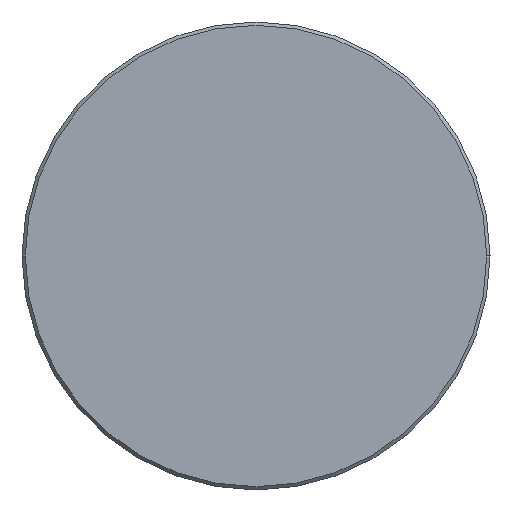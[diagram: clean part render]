
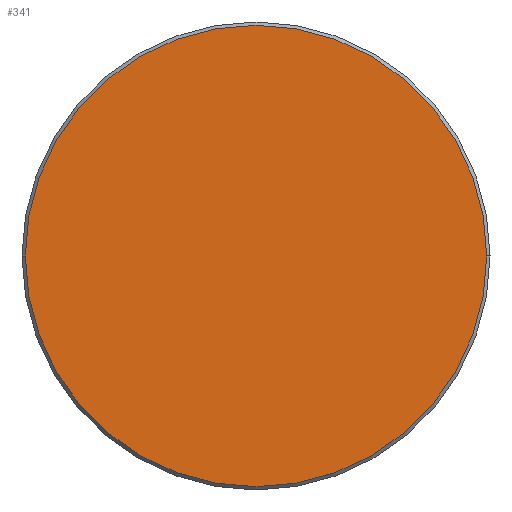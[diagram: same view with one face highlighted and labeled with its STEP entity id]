
A CAD part, left-side view. The second image highlights one B-rep face of the part: STEP entity #341.
In plain terms, the highlighted planar face has unit normal (-1, 0, 0).
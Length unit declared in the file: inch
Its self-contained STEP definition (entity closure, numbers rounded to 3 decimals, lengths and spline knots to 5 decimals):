
#14 = ORIENTED_EDGE ( 'NONE', *, *, #283, .T. ) ;
#25 = AXIS2_PLACEMENT_3D ( 'NONE', #165, #356, #218 ) ;
#73 = VERTEX_POINT ( 'NONE', #120 ) ;
#91 = EDGE_LOOP ( 'NONE', ( #180, #14 ) ) ;
#92 = CARTESIAN_POINT ( 'NONE',  ( 0., 0., 0. ) ) ;
#103 = AXIS2_PLACEMENT_3D ( 'NONE', #306, #364, #191 ) ;
#120 = CARTESIAN_POINT ( 'NONE',  ( 0., -0.27725, 0. ) ) ;
#128 = DIRECTION ( 'NONE',  ( 0., -1., 0. ) ) ;
#147 = EDGE_CURVE ( 'NONE', #236, #73, #317, .T. ) ;
#158 = DIRECTION ( 'NONE',  ( -1., 0., 0. ) ) ;
#165 = CARTESIAN_POINT ( 'NONE',  ( 0., 0., 0. ) ) ;
#176 = FACE_OUTER_BOUND ( 'NONE', #91, .T. ) ;
#180 = ORIENTED_EDGE ( 'NONE', *, *, #147, .T. ) ;
#181 = AXIS2_PLACEMENT_3D ( 'NONE', #92, #158, #128 ) ;
#191 = DIRECTION ( 'NONE',  ( 0., -1., 0. ) ) ;
#218 = DIRECTION ( 'NONE',  ( 0., -1., 0. ) ) ;
#236 = VERTEX_POINT ( 'NONE', #295 ) ;
#283 = EDGE_CURVE ( 'NONE', #73, #236, #381, .T. ) ;
#295 = CARTESIAN_POINT ( 'NONE',  ( 0., 0.27725, 0. ) ) ;
#298 = PLANE ( 'NONE',  #25 ) ;
#306 = CARTESIAN_POINT ( 'NONE',  ( 0., 0., 0. ) ) ;
#317 = CIRCLE ( 'NONE', #181, 0.27725 ) ;
#341 = ADVANCED_FACE ( 'NONE', ( #176 ), #298, .T. ) ;
#356 = DIRECTION ( 'NONE',  ( -1., 0., 0. ) ) ;
#364 = DIRECTION ( 'NONE',  ( -1., 0., 0. ) ) ;
#381 = CIRCLE ( 'NONE', #103, 0.27725 ) ;
